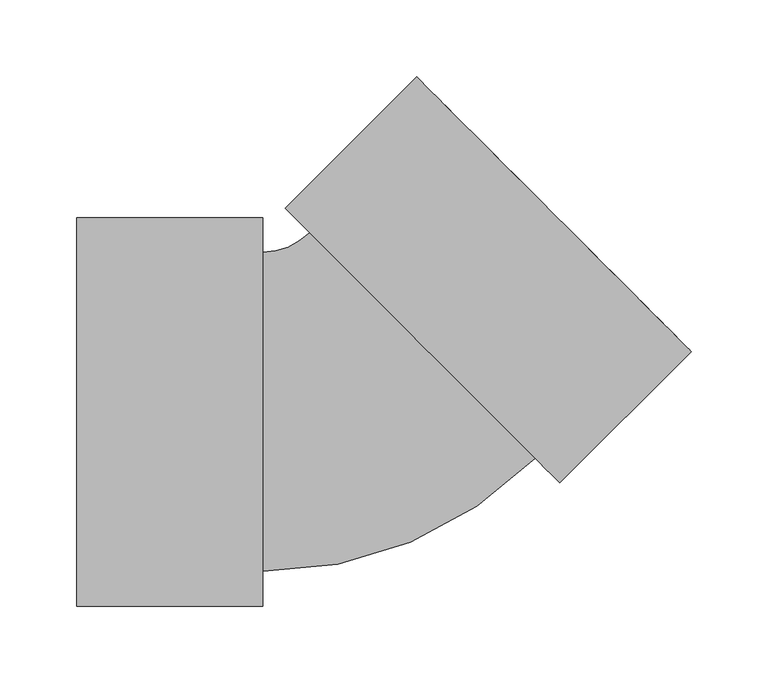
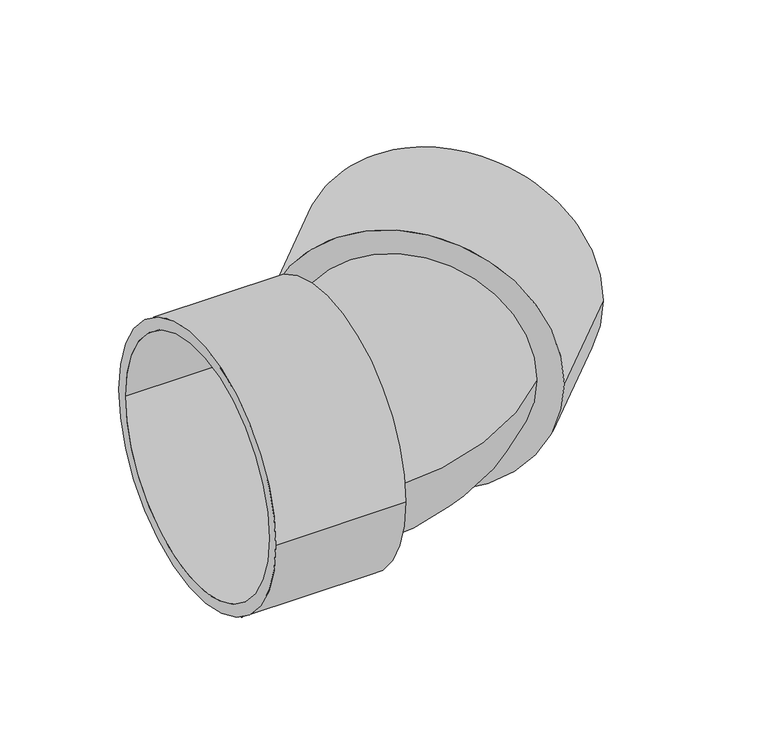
"""IFC4 building model written with IfcOpenShell, lengths in millimetres: pipe fitting geometry, Pipelife - Pragma +ID - Kolano kanalizacyjne : Pipelife - Pragma +ID - Kolano kanalizacyjne."""

from ifc_helpers import new_model, si_unit, point, frame, origin, place, context, project, spatial, polyline, circle_curve, ellipse_curve, trimmed, source, transform, mapped, element, save
from ifc_brep_helpers import plane_surface, cylinder_surface, revolved_surface, advanced_brep


def pipe_fitting_64016db7(model_context):
    return source(origin(), model_context, "Body", "AdvancedBrep", [
        advanced_brep(
        [(-182.0, -126.5, 0.0), (-182.0, 126.5, 0.0), (-182.0, 115.5, 0.0), (-182.0, -115.5, 0.0), (-61.0, -126.5, 0.0), (-61.0, 126.5, 0.0), (-65.0, -115.5, 0.0), (-65.0, 115.5, 0.0)],
        [
            (0, 1, circle_curve(frame((-182.0, 0.0, 0.0), z_axis=(-1.0, 0.0, 0.0), x_axis=(0.0, 1.0, 0.0)), 126.5)),
            (1, 0, circle_curve(frame((-182.0, 0.0, 0.0), z_axis=(-1.0, 0.0, 0.0), x_axis=(0.0, 1.0, 0.0)), 126.5)),
            (2, 3, circle_curve(frame((-182.0, 0.0, 0.0), z_axis=(1.0, 0.0, 0.0), x_axis=(0.0, 1.0, 0.0)), 115.5)),
            (3, 2, circle_curve(frame((-182.0, 0.0, 0.0), z_axis=(1.0, 0.0, 0.0), x_axis=(0.0, 1.0, 0.0)), 115.5)),
            (4, 5, circle_curve(frame((-61.0, 0.0, 0.0), z_axis=(1.0, 0.0, 0.0), x_axis=(0.0, 1.0, 0.0)), 126.5)),
            (5, 4, circle_curve(frame((-61.0, 0.0, 0.0), z_axis=(1.0, 0.0, 0.0), x_axis=(0.0, 1.0, 0.0)), 126.5)),
            (5, 1),
            (0, 4),
            (6, 7, circle_curve(frame((-65.0, 0.0, 0.0), z_axis=(-1.0, 0.0, 0.0), x_axis=(0.0, 1.0, 0.0)), 115.5)),
            (7, 6, circle_curve(frame((-65.0, 0.0, 0.0), z_axis=(-1.0, 0.0, 0.0), x_axis=(0.0, 1.0, 0.0)), 115.5)),
            (6, 3),
            (2, 7),
        ],
        [
            plane_surface(frame((-182.0, 0.0, 0.0), z_axis=(-1.0, 0.0, 0.0), x_axis=(0.0, 0.0, 1.0))),
            plane_surface(frame((-61.0, 0.0, 0.0), z_axis=(1.0, 0.0, 0.0), x_axis=(0.0, 0.0, 1.0))),
            cylinder_surface(frame((-187.0, 0.0, 0.0), z_axis=(-1.0, 0.0, 0.0), x_axis=(0.0, 1.0, 0.0)), 126.5),
            plane_surface(frame((-65.0, 0.0, 0.0), z_axis=(-1.0, 0.0, 0.0), x_axis=(0.0, 0.0, 1.0))),
            revolved_surface(polyline([(-182.0, 115.5, 0.0), (-65.0, 115.5, 0.0)]), (-187.0, 0.0, 0.0), (-1.0, 0.0, 0.0)),
        ],
        [
            (0, [[1, 2], [3, 4]]),
            (1, [[5, 6]]),
            (2, [[-6, 7, -1, 8]]),
            (2, [[-5, -8, -2, -7]]),
            (3, [[9, 10]]),
            (4, [[-9, 11, -3, 12]]),
            (4, [[-10, -12, -4, -11]]),
        ],
    ),
        advanced_brep(
        [(39.2444264, 218.142442, 0.0), (218.142442, 39.2444264, 0.0), (210.3642674, 47.0226009, 0.0), (47.0226009, 210.3642674, 0.0), (132.5825215, -46.3154942, 0.0), (-46.3154942, 132.5825215, 0.0), (127.632774, -35.7088924, 0.0), (-35.7088924, 127.632774, 0.0)],
        [
            (0, 1, circle_curve(frame((128.6934342, 128.6934342, 0.0), z_axis=(0.7071067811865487, 0.7071067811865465, 0.0), x_axis=(-0.7071067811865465, 0.7071067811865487, 0.0)), 126.5)),
            (1, 0, circle_curve(frame((128.6934342, 128.6934342, 0.0), z_axis=(0.7071067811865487, 0.7071067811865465, 0.0), x_axis=(-0.7071067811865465, 0.7071067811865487, 0.0)), 126.5)),
            (2, 3, circle_curve(frame((128.6934342, 128.6934342, 0.0), z_axis=(-0.7071067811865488, -0.7071067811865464, 0.0), x_axis=(-0.7071067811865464, 0.7071067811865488, 0.0)), 115.5)),
            (3, 2, circle_curve(frame((128.6934342, 128.6934342, 0.0), z_axis=(-0.7071067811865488, -0.7071067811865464, 0.0), x_axis=(-0.7071067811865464, 0.7071067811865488, 0.0)), 115.5)),
            (4, 5, circle_curve(frame((43.1335137, 43.1335137, 0.0), z_axis=(-0.7071067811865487, -0.7071067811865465, 0.0), x_axis=(-0.7071067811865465, 0.7071067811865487, 0.0)), 126.5)),
            (5, 4, circle_curve(frame((43.1335137, 43.1335137, 0.0), z_axis=(-0.7071067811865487, -0.7071067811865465, 0.0), x_axis=(-0.7071067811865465, 0.7071067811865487, 0.0)), 126.5)),
            (4, 1),
            (0, 5),
            (6, 7, circle_curve(frame((45.9619408, 45.9619408, 0.0), z_axis=(0.7071067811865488, 0.7071067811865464, 0.0), x_axis=(-0.7071067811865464, 0.7071067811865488, 0.0)), 115.5)),
            (7, 6, circle_curve(frame((45.9619408, 45.9619408, 0.0), z_axis=(0.7071067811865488, 0.7071067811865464, 0.0), x_axis=(-0.7071067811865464, 0.7071067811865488, 0.0)), 115.5)),
            (7, 3),
            (2, 6),
        ],
        [
            plane_surface(frame((128.6934342, 128.6934342, 0.0), z_axis=(0.7071067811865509, 0.7071067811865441, 0.0), x_axis=(0.0, 0.0, 1.0))),
            plane_surface(frame((43.1335137, 43.1335137, 0.0), z_axis=(-0.7071067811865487, -0.7071067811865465, 0.0), x_axis=(0.0, 0.0, 1.0))),
            cylinder_surface(frame((43.1335137, 43.1335137, 0.0), z_axis=(-0.7071067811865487, -0.7071067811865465, 0.0), x_axis=(-0.7071067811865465, 0.7071067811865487, 0.0)), 126.5),
            plane_surface(frame((45.9619408, 45.9619408, 0.0), z_axis=(0.7071067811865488, 0.7071067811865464, 0.0), x_axis=(0.0, 0.0, 1.0))),
            revolved_surface(polyline([(-35.708892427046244, 127.63277402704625, 0.0), (47.02260097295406, 210.3642674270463, 0.0)]), (45.9619408, 45.9619408, 0.0), (-0.7071067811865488, -0.7071067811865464, 0.0)),
        ],
        [
            (0, [[1, 2], [3, 4]]),
            (1, [[5, 6]]),
            (2, [[-5, 7, -1, 8]]),
            (2, [[-6, -8, -2, -7]]),
            (3, [[9, 10]]),
            (4, [[-10, 11, -3, 12]]),
            (4, [[-9, -12, -4, -11]]),
        ],
    ),
        advanced_brep(
        [(-61.0, -104.0, 0.0), (-61.0, 104.0, 0.0), (116.6726189, -30.4055916, 0.0), (-30.4055916, 116.6726189, 0.0)],
        [
            (0, 1, circle_curve(frame((-61.0, 0.0, 0.0), z_axis=(-1.0, 0.0, 0.0), x_axis=(0.0, 1.0, 0.0)), 104.0)),
            (1, 0, circle_curve(frame((-61.0, 0.0, 0.0), z_axis=(-1.0, 0.0, 0.0), x_axis=(0.0, 1.0, 0.0)), 104.0)),
            (2, 3, circle_curve(frame((43.1335137, 43.1335137, 0.0), z_axis=(0.7071067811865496, 0.7071067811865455, 0.0), x_axis=(-0.7071067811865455, 0.7071067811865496, 0.0)), 104.0)),
            (3, 2, circle_curve(frame((43.1335137, 43.1335137, 0.0), z_axis=(0.7071067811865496, 0.7071067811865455, 0.0), x_axis=(-0.7071067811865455, 0.7071067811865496, 0.0)), 104.0)),
            (3, 1, circle_curve(frame((-61.0, 147.2670273, 0.0), z_axis=(0.0, 0.0, -1.0), x_axis=(0.0, -1.0, 0.0)), 43.2670273)),
            (0, 2, circle_curve(frame((-61.0, 147.2670273, 0.0), z_axis=(0.0, 0.0, 1.0), x_axis=(0.0, -1.0, 0.0)), 251.2670273)),
        ],
        [
            plane_surface(frame((-61.0, 0.0, 0.0), z_axis=(-1.0, 0.0, 0.0), x_axis=(0.0, 0.0, 1.0))),
            plane_surface(frame((43.1335137, 43.1335137, 0.0), z_axis=(0.7071067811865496, 0.7071067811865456, 0.0), x_axis=(0.0, 0.0, 1.0))),
            revolved_surface(trimmed(ellipse_curve(frame((-61.0, 0.0, 0.0), z_axis=(-1.0, 0.0, 0.0), x_axis=(0.0, 1.0, 0.0)), 104.0, 104.0), [point((-61.0, -104.0, 0.0))], [point((-61.0, 104.0, 0.0))], True, "CARTESIAN"), (-61.0, 147.2670273, 0.0), (0.0, 0.0, 1.0)),
            revolved_surface(trimmed(ellipse_curve(frame((-61.0, 0.0, 0.0), z_axis=(-1.0, 0.0, 0.0), x_axis=(0.0, 1.0, 0.0)), 104.0, 104.0), [point((-61.0, 104.0, 0.0))], [point((-61.0, -104.0, 0.0))], True, "CARTESIAN"), (-61.0, 147.2670273, 0.0), (0.0, 0.0, 1.0)),
        ],
        [
            (0, [[1, 2]]),
            (1, [[3, 4]]),
            (2, [[5, -1, 6, -4]]),
            (3, [[-6, -2, -5, -3]]),
        ],
    ),
    ])


if __name__ == "__main__":
    model = new_model("IFC4")
    model_context = context("Model", 3, world=origin())
    ifc_project = project(units=[si_unit("LENGTHUNIT", "METRE", prefix="MILLI")], contexts=[model_context])
    site = spatial("IfcSite", under=ifc_project)
    building = spatial("IfcBuilding", under=site)
    placement = place(None, origin())
    pipe_fitting_shape = pipe_fitting_64016db7(model_context)
    element("IfcPipeFitting", 1, ObjectType="Pipelife - Pragma +ID - Kolano kanalizacyjne : Pipelife - Pragma +ID - Kolano kanalizacyjne", at=placement, inside=building, context=model_context, shape_type="MappedRepresentation", body=[
        mapped(pipe_fitting_shape, transform((0.0, 0.0, 0.0), x_axis=(1.0, 0.0, 0.0), y_axis=(0.0, 1.0, 0.0), z_axis=(0.0, 0.0, 1.0))),
    ])
    save(model, "model.ifc")
